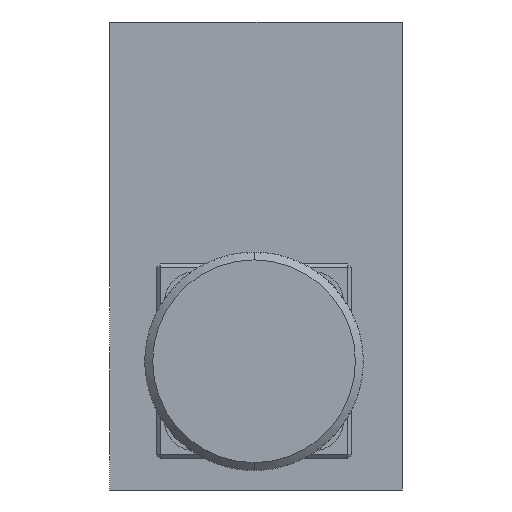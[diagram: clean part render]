
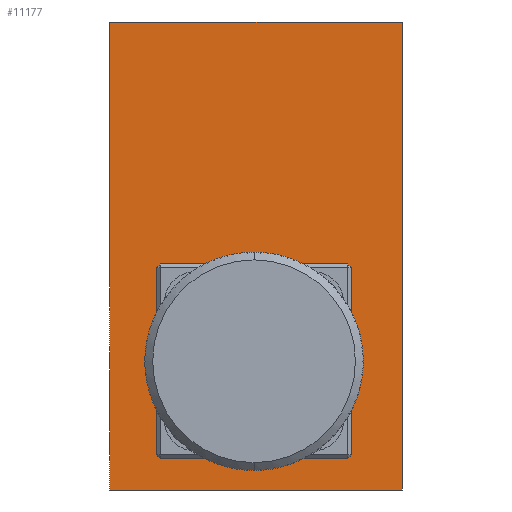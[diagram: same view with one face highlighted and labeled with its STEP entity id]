
A CAD part, left-side view. The second image highlights one B-rep face of the part: STEP entity #11177.
In plain terms, the highlighted planar face has unit normal (-1, 0, 0).
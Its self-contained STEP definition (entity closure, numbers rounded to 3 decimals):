
#459 = VERTEX_POINT ( 'NONE', #12367 ) ;
#1131 = ORIENTED_EDGE ( 'NONE', *, *, #16480, .F. ) ;
#1509 = EDGE_CURVE ( 'NONE', #459, #29696, #8900, .T. ) ;
#1988 = EDGE_LOOP ( 'NONE', ( #1131, #3387, #24611, #9508 ) ) ;
#2027 = VERTEX_POINT ( 'NONE', #22607 ) ;
#2339 = VECTOR ( 'NONE', #10771, 1000. ) ;
#2464 = DIRECTION ( 'NONE',  ( 0., 0., 1. ) ) ;
#2517 = DIRECTION ( 'NONE',  ( 0., 0., 1. ) ) ;
#2795 = FACE_BOUND ( 'NONE', #11535, .T. ) ;
#3387 = ORIENTED_EDGE ( 'NONE', *, *, #19447, .F. ) ;
#4221 = VECTOR ( 'NONE', #26340, 1000. ) ;
#4438 = DIRECTION ( 'NONE',  ( -1., 0., 0. ) ) ;
#4454 = AXIS2_PLACEMENT_3D ( 'NONE', #29515, #14593, #31991 ) ;
#4705 = CIRCLE ( 'NONE', #4454, 1.65 ) ;
#4787 = EDGE_CURVE ( 'NONE', #8718, #10235, #25576, .T. ) ;
#5116 = AXIS2_PLACEMENT_3D ( 'NONE', #26930, #12031, #29437 ) ;
#6818 = DIRECTION ( 'NONE',  ( 0., 0., -1. ) ) ;
#6888 = CIRCLE ( 'NONE', #5116, 1.65 ) ;
#8535 = AXIS2_PLACEMENT_3D ( 'NONE', #32196, #17280, #2517 ) ;
#8718 = VERTEX_POINT ( 'NONE', #23360 ) ;
#8900 = LINE ( 'NONE', #11076, #2339 ) ;
#9336 = FACE_BOUND ( 'NONE', #25676, .T. ) ;
#9508 = ORIENTED_EDGE ( 'NONE', *, *, #1509, .F. ) ;
#9880 = EDGE_LOOP ( 'NONE', ( #31281, #22360 ) ) ;
#10098 = CARTESIAN_POINT ( 'NONE',  ( 0., -18.75, -30. ) ) ;
#10235 = VERTEX_POINT ( 'NONE', #13249 ) ;
#10433 = DIRECTION ( 'NONE',  ( -1., 0., 0. ) ) ;
#10771 = DIRECTION ( 'NONE',  ( 0., 0., 1. ) ) ;
#11076 = CARTESIAN_POINT ( 'NONE',  ( 0., 18.75, 30. ) ) ;
#11177 = ADVANCED_FACE ( 'NONE', ( #15888, #2795, #28380, #9336 ), #22152, .T. ) ;
#11535 = EDGE_LOOP ( 'NONE', ( #12001, #14774 ) ) ;
#11712 = EDGE_CURVE ( 'NONE', #2027, #27746, #4705, .T. ) ;
#11964 = VERTEX_POINT ( 'NONE', #30494 ) ;
#12001 = ORIENTED_EDGE ( 'NONE', *, *, #12700, .F. ) ;
#12024 = LINE ( 'NONE', #24105, #18593 ) ;
#12031 = DIRECTION ( 'NONE',  ( -1., 0., 0. ) ) ;
#12367 = CARTESIAN_POINT ( 'NONE',  ( 0., 18.75, -30. ) ) ;
#12700 = EDGE_CURVE ( 'NONE', #27746, #2027, #6888, .T. ) ;
#13249 = CARTESIAN_POINT ( 'NONE',  ( 0., 0.25, -9.25 ) ) ;
#13275 = LINE ( 'NONE', #10098, #19862 ) ;
#14030 = CARTESIAN_POINT ( 'NONE',  ( 0., 7.75, -19.35 ) ) ;
#14095 = DIRECTION ( 'NONE',  ( -1., 0., 0. ) ) ;
#14570 = EDGE_CURVE ( 'NONE', #18693, #22028, #22099, .T. ) ;
#14593 = DIRECTION ( 'NONE',  ( -1., 0., 0. ) ) ;
#14774 = ORIENTED_EDGE ( 'NONE', *, *, #11712, .F. ) ;
#15510 = CIRCLE ( 'NONE', #28968, 1.65 ) ;
#15888 = FACE_OUTER_BOUND ( 'NONE', #1988, .T. ) ;
#16417 = CARTESIAN_POINT ( 'NONE',  ( 0., -18.75, -30. ) ) ;
#16480 = EDGE_CURVE ( 'NONE', #26658, #459, #13275, .T. ) ;
#17235 = DIRECTION ( 'NONE',  ( -1., 0., 0. ) ) ;
#17280 = DIRECTION ( 'NONE',  ( -1., 0., 0. ) ) ;
#17909 = EDGE_CURVE ( 'NONE', #10235, #8718, #30605, .T. ) ;
#18242 = CARTESIAN_POINT ( 'NONE',  ( 0., 18.75, 30. ) ) ;
#18593 = VECTOR ( 'NONE', #6818, 1000. ) ;
#18693 = VERTEX_POINT ( 'NONE', #27667 ) ;
#19187 = CARTESIAN_POINT ( 'NONE',  ( 0., 0.25, -13.5 ) ) ;
#19447 = EDGE_CURVE ( 'NONE', #11964, #26658, #12024, .T. ) ;
#19657 = LINE ( 'NONE', #26230, #4221 ) ;
#19693 = AXIS2_PLACEMENT_3D ( 'NONE', #19187, #4438, #21681 ) ;
#19862 = VECTOR ( 'NONE', #24942, 1000. ) ;
#21681 = DIRECTION ( 'NONE',  ( 0., 0., 1. ) ) ;
#22028 = VERTEX_POINT ( 'NONE', #29956 ) ;
#22099 = CIRCLE ( 'NONE', #28222, 1.65 ) ;
#22152 = PLANE ( 'NONE',  #8535 ) ;
#22360 = ORIENTED_EDGE ( 'NONE', *, *, #14570, .F. ) ;
#22607 = CARTESIAN_POINT ( 'NONE',  ( 0., 7.75, -22.65 ) ) ;
#23360 = CARTESIAN_POINT ( 'NONE',  ( 0., 0.25, -17.75 ) ) ;
#24105 = CARTESIAN_POINT ( 'NONE',  ( 0., -18.75, 30. ) ) ;
#24611 = ORIENTED_EDGE ( 'NONE', *, *, #25734, .F. ) ;
#24942 = DIRECTION ( 'NONE',  ( 0., 1., 0. ) ) ;
#25039 = ORIENTED_EDGE ( 'NONE', *, *, #17909, .F. ) ;
#25287 = CARTESIAN_POINT ( 'NONE',  ( 0., -7.25, -6. ) ) ;
#25576 = CIRCLE ( 'NONE', #31128, 4.25 ) ;
#25676 = EDGE_LOOP ( 'NONE', ( #25039, #27521 ) ) ;
#25734 = EDGE_CURVE ( 'NONE', #29696, #11964, #19657, .T. ) ;
#26230 = CARTESIAN_POINT ( 'NONE',  ( 0., -18.75, 30. ) ) ;
#26340 = DIRECTION ( 'NONE',  ( 0., -1., 0. ) ) ;
#26658 = VERTEX_POINT ( 'NONE', #16417 ) ;
#26930 = CARTESIAN_POINT ( 'NONE',  ( 0., 7.75, -21. ) ) ;
#27521 = ORIENTED_EDGE ( 'NONE', *, *, #4787, .F. ) ;
#27667 = CARTESIAN_POINT ( 'NONE',  ( 0., -7.25, -7.65 ) ) ;
#27746 = VERTEX_POINT ( 'NONE', #14030 ) ;
#27830 = DIRECTION ( 'NONE',  ( 0., 0., 1. ) ) ;
#28222 = AXIS2_PLACEMENT_3D ( 'NONE', #25287, #10433, #27830 ) ;
#28380 = FACE_BOUND ( 'NONE', #9880, .T. ) ;
#28968 = AXIS2_PLACEMENT_3D ( 'NONE', #29007, #14095, #31500 ) ;
#29007 = CARTESIAN_POINT ( 'NONE',  ( 0., -7.25, -6. ) ) ;
#29437 = DIRECTION ( 'NONE',  ( 0., 0., 1. ) ) ;
#29515 = CARTESIAN_POINT ( 'NONE',  ( 0., 7.75, -21. ) ) ;
#29696 = VERTEX_POINT ( 'NONE', #18242 ) ;
#29956 = CARTESIAN_POINT ( 'NONE',  ( 0., -7.25, -4.35 ) ) ;
#30494 = CARTESIAN_POINT ( 'NONE',  ( 0., -18.75, 30. ) ) ;
#30605 = CIRCLE ( 'NONE', #19693, 4.25 ) ;
#31128 = AXIS2_PLACEMENT_3D ( 'NONE', #32153, #17235, #2464 ) ;
#31281 = ORIENTED_EDGE ( 'NONE', *, *, #31855, .F. ) ;
#31500 = DIRECTION ( 'NONE',  ( 0., 0., 1. ) ) ;
#31855 = EDGE_CURVE ( 'NONE', #22028, #18693, #15510, .T. ) ;
#31991 = DIRECTION ( 'NONE',  ( 0., 0., 1. ) ) ;
#32153 = CARTESIAN_POINT ( 'NONE',  ( 0., 0.25, -13.5 ) ) ;
#32196 = CARTESIAN_POINT ( 'NONE',  ( 0., 18.75, -30. ) ) ;
